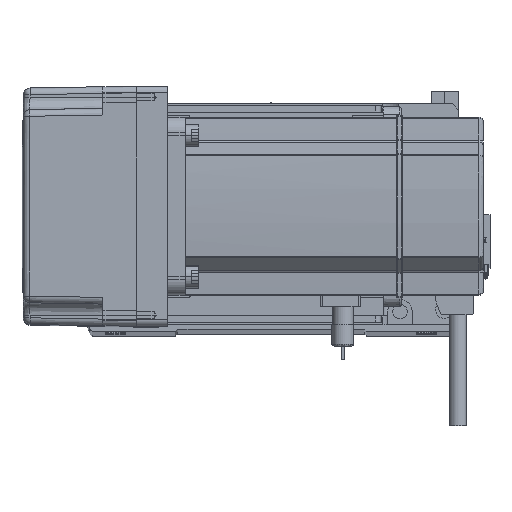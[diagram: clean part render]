
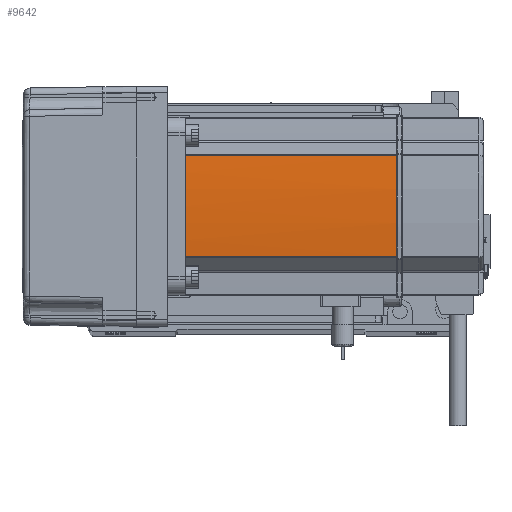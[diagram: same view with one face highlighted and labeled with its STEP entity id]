
A CAD part, top view. The second image highlights one B-rep face of the part: STEP entity #9642.
In plain terms, the highlighted cylindrical face has radius 270 mm (diameter 540 mm), a partial arc.
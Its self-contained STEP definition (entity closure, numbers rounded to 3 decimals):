
#873 = CARTESIAN_POINT ( 'NONE',  ( 39.042, 22.724, 58. ) ) ;
#1175 = ORIENTED_EDGE ( 'NONE', *, *, #19156, .F. ) ;
#2304 = AXIS2_PLACEMENT_3D ( 'NONE', #4569, #12752, #8735 ) ;
#4569 = CARTESIAN_POINT ( 'NONE',  ( -230., 0., 134. ) ) ;
#4589 = CARTESIAN_POINT ( 'NONE',  ( 39.042, 22.724, 134. ) ) ;
#5198 = CARTESIAN_POINT ( 'NONE',  ( 39.042, -22.724, 58. ) ) ;
#6162 = FACE_OUTER_BOUND ( 'NONE', #11567, .T. ) ;
#6788 = AXIS2_PLACEMENT_3D ( 'NONE', #11706, #21036, #43871 ) ;
#6922 = AXIS2_PLACEMENT_3D ( 'NONE', #38736, #7368, #6975 ) ;
#6975 = DIRECTION ( 'NONE',  ( -1., 0., 0. ) ) ;
#7368 = DIRECTION ( 'NONE',  ( 0., 0., -1. ) ) ;
#8735 = DIRECTION ( 'NONE',  ( -1., 0., 0. ) ) ;
#8967 = EDGE_CURVE ( 'NONE', #15670, #10152, #20496, .T. ) ;
#9239 = DIRECTION ( 'NONE',  ( 0., 0., 1. ) ) ;
#9570 = DIRECTION ( 'NONE',  ( 0., 0., -1. ) ) ;
#9642 = ADVANCED_FACE ( 'NONE', ( #6162 ), #55891, .T. ) ;
#10152 = VERTEX_POINT ( 'NONE', #37886 ) ;
#10566 = CARTESIAN_POINT ( 'NONE',  ( 40., 0.127, 134. ) ) ;
#11028 = DIRECTION ( 'NONE',  ( -1., 0., 0. ) ) ;
#11567 = EDGE_LOOP ( 'NONE', ( #52997, #49425, #25039, #49142, #1175, #58637 ) ) ;
#11706 = CARTESIAN_POINT ( 'NONE',  ( -230., 0., 134. ) ) ;
#12752 = DIRECTION ( 'NONE',  ( 0., 0., -1. ) ) ;
#15365 = CARTESIAN_POINT ( 'NONE',  ( 39.042, -22.724, 134. ) ) ;
#15670 = VERTEX_POINT ( 'NONE', #4589 ) ;
#18254 = VECTOR ( 'NONE', #9239, 1000. ) ;
#18496 = EDGE_CURVE ( 'NONE', #37448, #52187, #47592, .T. ) ;
#19156 = EDGE_CURVE ( 'NONE', #29533, #10152, #27781, .T. ) ;
#20496 = CIRCLE ( 'NONE', #2304, 270. ) ;
#21036 = DIRECTION ( 'NONE',  ( 0., 0., -1. ) ) ;
#25039 = ORIENTED_EDGE ( 'NONE', *, *, #48368, .T. ) ;
#27781 = B_SPLINE_CURVE_WITH_KNOTS ( 'NONE', 3,
 ( #46742, #55838, #37771, #10566 ),
 .UNSPECIFIED., .F., .F.,
 ( 4, 4 ),
 ( 0., 1. ),
 .UNSPECIFIED. ) ;
#28168 = EDGE_CURVE ( 'NONE', #36518, #52187, #56172, .T. ) ;
#28321 = DIRECTION ( 'NONE',  ( 0., 0., -1. ) ) ;
#28861 = LINE ( 'NONE', #873, #18254 ) ;
#29533 = VERTEX_POINT ( 'NONE', #38237 ) ;
#35235 = EDGE_CURVE ( 'NONE', #29533, #36518, #37060, .T. ) ;
#36518 = VERTEX_POINT ( 'NONE', #15365 ) ;
#36740 = CARTESIAN_POINT ( 'NONE',  ( 39.042, -22.724, 39. ) ) ;
#37060 = CIRCLE ( 'NONE', #6788, 270. ) ;
#37312 = CARTESIAN_POINT ( 'NONE',  ( 39.042, 22.724, 39. ) ) ;
#37448 = VERTEX_POINT ( 'NONE', #37312 ) ;
#37771 = CARTESIAN_POINT ( 'NONE',  ( 40., 0.042, 134. ) ) ;
#37886 = CARTESIAN_POINT ( 'NONE',  ( 40., 0.127, 134. ) ) ;
#38237 = CARTESIAN_POINT ( 'NONE',  ( 40., -0.127, 134. ) ) ;
#38736 = CARTESIAN_POINT ( 'NONE',  ( -230., 0., 58. ) ) ;
#43871 = DIRECTION ( 'NONE',  ( -1., 0., 0. ) ) ;
#46742 = CARTESIAN_POINT ( 'NONE',  ( 40., -0.127, 134. ) ) ;
#47592 = CIRCLE ( 'NONE', #53700, 270. ) ;
#48368 = EDGE_CURVE ( 'NONE', #37448, #15670, #28861, .T. ) ;
#49142 = ORIENTED_EDGE ( 'NONE', *, *, #8967, .T. ) ;
#49425 = ORIENTED_EDGE ( 'NONE', *, *, #18496, .F. ) ;
#52187 = VERTEX_POINT ( 'NONE', #36740 ) ;
#52997 = ORIENTED_EDGE ( 'NONE', *, *, #28168, .T. ) ;
#53342 = VECTOR ( 'NONE', #9570, 1000. ) ;
#53700 = AXIS2_PLACEMENT_3D ( 'NONE', #56276, #28321, #11028 ) ;
#55838 = CARTESIAN_POINT ( 'NONE',  ( 40., -0.042, 134. ) ) ;
#55891 = CYLINDRICAL_SURFACE ( 'NONE', #6922, 270. ) ;
#56172 = LINE ( 'NONE', #5198, #53342 ) ;
#56276 = CARTESIAN_POINT ( 'NONE',  ( -230., 0., 39. ) ) ;
#58637 = ORIENTED_EDGE ( 'NONE', *, *, #35235, .T. ) ;
